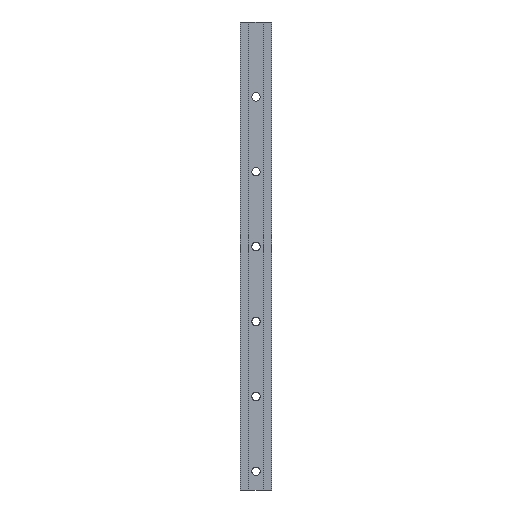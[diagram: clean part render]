
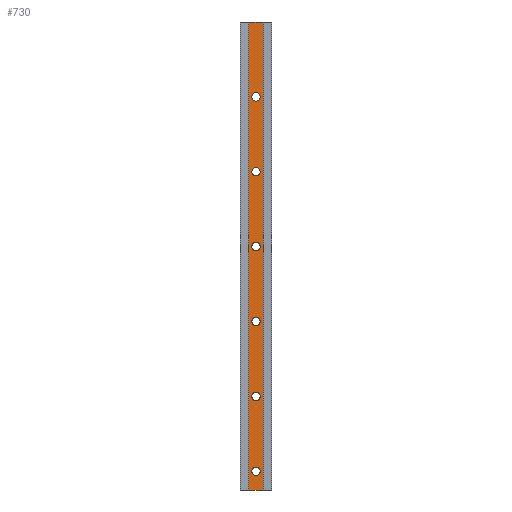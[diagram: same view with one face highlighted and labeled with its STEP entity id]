
A CAD part, front view. The second image highlights one B-rep face of the part: STEP entity #730.
In plain terms, the highlighted planar face has unit normal (0, -1, 0).
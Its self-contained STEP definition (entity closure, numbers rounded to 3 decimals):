
#14 = ORIENTED_EDGE ( 'NONE', *, *, #2278, .F. ) ;
#32 = AXIS2_PLACEMENT_3D ( 'NONE', #114, #1310, #925 ) ;
#46 = CARTESIAN_POINT ( 'NONE',  ( 1.5, -7., 20. ) ) ;
#62 = EDGE_CURVE ( 'NONE', #1181, #1320, #609, .T. ) ;
#85 = PLANE ( 'NONE',  #443 ) ;
#88 = VERTEX_POINT ( 'NONE', #1462 ) ;
#100 = EDGE_CURVE ( 'NONE', #1075, #2083, #1859, .T. ) ;
#109 = ORIENTED_EDGE ( 'NONE', *, *, #1827, .T. ) ;
#114 = CARTESIAN_POINT ( 'NONE',  ( -3., -7., 100. ) ) ;
#135 = DIRECTION ( 'NONE',  ( -1., 0., 0. ) ) ;
#138 = VERTEX_POINT ( 'NONE', #623 ) ;
#203 = CARTESIAN_POINT ( 'NONE',  ( -3., -7., 340. ) ) ;
#208 = CARTESIAN_POINT ( 'NONE',  ( 5., -7., 0. ) ) ;
#212 = AXIS2_PLACEMENT_3D ( 'NONE', #2614, #395, #1826 ) ;
#220 = CARTESIAN_POINT ( 'NONE',  ( -11., -7., 0. ) ) ;
#253 = VERTEX_POINT ( 'NONE', #1317 ) ;
#258 = FACE_BOUND ( 'NONE', #974, .T. ) ;
#271 = FACE_BOUND ( 'NONE', #2415, .T. ) ;
#300 = AXIS2_PLACEMENT_3D ( 'NONE', #993, #2179, #343 ) ;
#306 = CARTESIAN_POINT ( 'NONE',  ( 1.5, -7., 420. ) ) ;
#337 = DIRECTION ( 'NONE',  ( 1., 0., 0. ) ) ;
#343 = DIRECTION ( 'NONE',  ( -1., 0., 0. ) ) ;
#346 = DIRECTION ( 'NONE',  ( -1., 0., 0. ) ) ;
#351 = DIRECTION ( 'NONE',  ( 0., 0., 1. ) ) ;
#373 = EDGE_CURVE ( 'NONE', #506, #881, #2330, .T. ) ;
#395 = DIRECTION ( 'NONE',  ( 0., 1., 0. ) ) ;
#410 = DIRECTION ( 'NONE',  ( -1., 0., 0. ) ) ;
#416 = AXIS2_PLACEMENT_3D ( 'NONE', #1839, #824, #628 ) ;
#421 = ORIENTED_EDGE ( 'NONE', *, *, #2075, .T. ) ;
#439 = CARTESIAN_POINT ( 'NONE',  ( -3., -7., 420. ) ) ;
#443 = AXIS2_PLACEMENT_3D ( 'NONE', #1684, #676, #2324 ) ;
#447 = ORIENTED_EDGE ( 'NONE', *, *, #1475, .T. ) ;
#506 = VERTEX_POINT ( 'NONE', #1963 ) ;
#527 = LINE ( 'NONE', #2563, #825 ) ;
#588 = DIRECTION ( 'NONE',  ( -1., 0., 0. ) ) ;
#600 = CARTESIAN_POINT ( 'NONE',  ( -3., -7., 20. ) ) ;
#601 = LINE ( 'NONE', #220, #835 ) ;
#609 = CIRCLE ( 'NONE', #2103, 4.5 ) ;
#611 = DIRECTION ( 'NONE',  ( 0., 1., 0. ) ) ;
#623 = CARTESIAN_POINT ( 'NONE',  ( -7.5, -7., 100. ) ) ;
#627 = ORIENTED_EDGE ( 'NONE', *, *, #1640, .T. ) ;
#628 = DIRECTION ( 'NONE',  ( -1., 0., 0. ) ) ;
#637 = CIRCLE ( 'NONE', #2021, 4.5 ) ;
#659 = DIRECTION ( 'NONE',  ( 0., 1., 0. ) ) ;
#676 = DIRECTION ( 'NONE',  ( 0., -1., 0. ) ) ;
#702 = DIRECTION ( 'NONE',  ( 0., 0., 1. ) ) ;
#718 = CARTESIAN_POINT ( 'NONE',  ( -7.5, -7., 340. ) ) ;
#723 = ORIENTED_EDGE ( 'NONE', *, *, #2466, .T. ) ;
#730 = ADVANCED_FACE ( 'NONE', ( #1092, #258, #896, #1707, #271, #1913, #1326 ), #85, .T. ) ;
#733 = CIRCLE ( 'NONE', #300, 4.5 ) ;
#771 = EDGE_CURVE ( 'NONE', #138, #253, #1948, .T. ) ;
#778 = LINE ( 'NONE', #1949, #917 ) ;
#790 = DIRECTION ( 'NONE',  ( -1., 0., 0. ) ) ;
#824 = DIRECTION ( 'NONE',  ( 0., 1., 0. ) ) ;
#825 = VECTOR ( 'NONE', #337, 1000. ) ;
#835 = VECTOR ( 'NONE', #2234, 1000. ) ;
#842 = AXIS2_PLACEMENT_3D ( 'NONE', #1237, #659, #1228 ) ;
#881 = VERTEX_POINT ( 'NONE', #1136 ) ;
#896 = FACE_BOUND ( 'NONE', #2561, .T. ) ;
#898 = ORIENTED_EDGE ( 'NONE', *, *, #100, .T. ) ;
#907 = LINE ( 'NONE', #2129, #1177 ) ;
#917 = VECTOR ( 'NONE', #351, 1000. ) ;
#922 = EDGE_LOOP ( 'NONE', ( #2595, #2023, #14, #1062 ) ) ;
#925 = DIRECTION ( 'NONE',  ( -1., 0., 0. ) ) ;
#927 = AXIS2_PLACEMENT_3D ( 'NONE', #439, #611, #790 ) ;
#974 = EDGE_LOOP ( 'NONE', ( #2591, #1118 ) ) ;
#993 = CARTESIAN_POINT ( 'NONE',  ( -3., -7., 180. ) ) ;
#1008 = DIRECTION ( 'NONE',  ( 0., 1., 0. ) ) ;
#1009 = AXIS2_PLACEMENT_3D ( 'NONE', #203, #1008, #410 ) ;
#1016 = CARTESIAN_POINT ( 'NONE',  ( -11., -7., 0. ) ) ;
#1040 = AXIS2_PLACEMENT_3D ( 'NONE', #1089, #1307, #2350 ) ;
#1062 = ORIENTED_EDGE ( 'NONE', *, *, #1513, .F. ) ;
#1075 = VERTEX_POINT ( 'NONE', #2452 ) ;
#1089 = CARTESIAN_POINT ( 'NONE',  ( -3., -7., 340. ) ) ;
#1092 = FACE_BOUND ( 'NONE', #1581, .T. ) ;
#1095 = VERTEX_POINT ( 'NONE', #208 ) ;
#1118 = ORIENTED_EDGE ( 'NONE', *, *, #1799, .T. ) ;
#1136 = CARTESIAN_POINT ( 'NONE',  ( 1.5, -7., 180. ) ) ;
#1142 = DIRECTION ( 'NONE',  ( 0., 1., 0. ) ) ;
#1177 = VECTOR ( 'NONE', #702, 1000. ) ;
#1181 = VERTEX_POINT ( 'NONE', #46 ) ;
#1228 = DIRECTION ( 'NONE',  ( -1., 0., 0. ) ) ;
#1237 = CARTESIAN_POINT ( 'NONE',  ( -3., -7., 420. ) ) ;
#1288 = ORIENTED_EDGE ( 'NONE', *, *, #62, .T. ) ;
#1307 = DIRECTION ( 'NONE',  ( 0., 1., 0. ) ) ;
#1310 = DIRECTION ( 'NONE',  ( 0., 1., 0. ) ) ;
#1317 = CARTESIAN_POINT ( 'NONE',  ( 1.5, -7., 100. ) ) ;
#1320 = VERTEX_POINT ( 'NONE', #2460 ) ;
#1326 = FACE_OUTER_BOUND ( 'NONE', #922, .T. ) ;
#1341 = EDGE_CURVE ( 'NONE', #2629, #2000, #1685, .T. ) ;
#1347 = CARTESIAN_POINT ( 'NONE',  ( -3., -7., 180. ) ) ;
#1374 = VERTEX_POINT ( 'NONE', #1643 ) ;
#1398 = CIRCLE ( 'NONE', #212, 4.5 ) ;
#1431 = ORIENTED_EDGE ( 'NONE', *, *, #1341, .T. ) ;
#1462 = CARTESIAN_POINT ( 'NONE',  ( 1.5, -7., 340. ) ) ;
#1475 = EDGE_CURVE ( 'NONE', #88, #1760, #2284, .T. ) ;
#1491 = VERTEX_POINT ( 'NONE', #2089 ) ;
#1513 = EDGE_CURVE ( 'NONE', #1792, #1374, #907, .T. ) ;
#1560 = DIRECTION ( 'NONE',  ( 0., 1., 0. ) ) ;
#1581 = EDGE_LOOP ( 'NONE', ( #2134, #1288 ) ) ;
#1600 = AXIS2_PLACEMENT_3D ( 'NONE', #1994, #2137, #346 ) ;
#1640 = EDGE_CURVE ( 'NONE', #1760, #88, #1848, .T. ) ;
#1643 = CARTESIAN_POINT ( 'NONE',  ( -11., -7., 500. ) ) ;
#1684 = CARTESIAN_POINT ( 'NONE',  ( -11., -7., 0. ) ) ;
#1685 = CIRCLE ( 'NONE', #416, 4.5 ) ;
#1701 = EDGE_CURVE ( 'NONE', #1095, #1491, #778, .T. ) ;
#1707 = FACE_BOUND ( 'NONE', #2220, .T. ) ;
#1734 = CIRCLE ( 'NONE', #927, 4.5 ) ;
#1760 = VERTEX_POINT ( 'NONE', #718 ) ;
#1784 = ORIENTED_EDGE ( 'NONE', *, *, #373, .T. ) ;
#1792 = VERTEX_POINT ( 'NONE', #1016 ) ;
#1799 = EDGE_CURVE ( 'NONE', #253, #138, #1398, .T. ) ;
#1826 = DIRECTION ( 'NONE',  ( -1., 0., 0. ) ) ;
#1827 = EDGE_CURVE ( 'NONE', #2083, #1075, #1734, .T. ) ;
#1839 = CARTESIAN_POINT ( 'NONE',  ( -3., -7., 260. ) ) ;
#1848 = CIRCLE ( 'NONE', #1040, 4.5 ) ;
#1859 = CIRCLE ( 'NONE', #842, 4.5 ) ;
#1872 = EDGE_CURVE ( 'NONE', #1792, #1095, #601, .T. ) ;
#1913 = FACE_BOUND ( 'NONE', #2502, .T. ) ;
#1948 = CIRCLE ( 'NONE', #32, 4.5 ) ;
#1949 = CARTESIAN_POINT ( 'NONE',  ( 5., -7., 0. ) ) ;
#1963 = CARTESIAN_POINT ( 'NONE',  ( -7.5, -7., 180. ) ) ;
#1994 = CARTESIAN_POINT ( 'NONE',  ( -3., -7., 260. ) ) ;
#2000 = VERTEX_POINT ( 'NONE', #2085 ) ;
#2008 = CARTESIAN_POINT ( 'NONE',  ( -3., -7., 20. ) ) ;
#2021 = AXIS2_PLACEMENT_3D ( 'NONE', #2008, #1560, #588 ) ;
#2023 = ORIENTED_EDGE ( 'NONE', *, *, #1701, .T. ) ;
#2075 = EDGE_CURVE ( 'NONE', #2000, #2629, #2242, .T. ) ;
#2083 = VERTEX_POINT ( 'NONE', #306 ) ;
#2085 = CARTESIAN_POINT ( 'NONE',  ( 1.5, -7., 260. ) ) ;
#2089 = CARTESIAN_POINT ( 'NONE',  ( 5., -7., 500. ) ) ;
#2103 = AXIS2_PLACEMENT_3D ( 'NONE', #600, #2455, #2468 ) ;
#2129 = CARTESIAN_POINT ( 'NONE',  ( -11., -7., 0. ) ) ;
#2134 = ORIENTED_EDGE ( 'NONE', *, *, #2392, .T. ) ;
#2137 = DIRECTION ( 'NONE',  ( 0., 1., 0. ) ) ;
#2179 = DIRECTION ( 'NONE',  ( 0., 1., 0. ) ) ;
#2218 = AXIS2_PLACEMENT_3D ( 'NONE', #1347, #1142, #135 ) ;
#2220 = EDGE_LOOP ( 'NONE', ( #1431, #421 ) ) ;
#2234 = DIRECTION ( 'NONE',  ( 1., 0., 0. ) ) ;
#2242 = CIRCLE ( 'NONE', #1600, 4.5 ) ;
#2278 = EDGE_CURVE ( 'NONE', #1374, #1491, #527, .T. ) ;
#2284 = CIRCLE ( 'NONE', #1009, 4.5 ) ;
#2324 = DIRECTION ( 'NONE',  ( 0., 0., -1. ) ) ;
#2330 = CIRCLE ( 'NONE', #2218, 4.5 ) ;
#2350 = DIRECTION ( 'NONE',  ( -1., 0., 0. ) ) ;
#2392 = EDGE_CURVE ( 'NONE', #1320, #1181, #637, .T. ) ;
#2415 = EDGE_LOOP ( 'NONE', ( #627, #447 ) ) ;
#2452 = CARTESIAN_POINT ( 'NONE',  ( -7.5, -7., 420. ) ) ;
#2455 = DIRECTION ( 'NONE',  ( 0., 1., 0. ) ) ;
#2460 = CARTESIAN_POINT ( 'NONE',  ( -7.5, -7., 20. ) ) ;
#2466 = EDGE_CURVE ( 'NONE', #881, #506, #733, .T. ) ;
#2468 = DIRECTION ( 'NONE',  ( -1., 0., 0. ) ) ;
#2502 = EDGE_LOOP ( 'NONE', ( #898, #109 ) ) ;
#2561 = EDGE_LOOP ( 'NONE', ( #1784, #723 ) ) ;
#2563 = CARTESIAN_POINT ( 'NONE',  ( -11., -7., 500. ) ) ;
#2591 = ORIENTED_EDGE ( 'NONE', *, *, #771, .T. ) ;
#2595 = ORIENTED_EDGE ( 'NONE', *, *, #1872, .T. ) ;
#2614 = CARTESIAN_POINT ( 'NONE',  ( -3., -7., 100. ) ) ;
#2623 = CARTESIAN_POINT ( 'NONE',  ( -7.5, -7., 260. ) ) ;
#2629 = VERTEX_POINT ( 'NONE', #2623 ) ;
